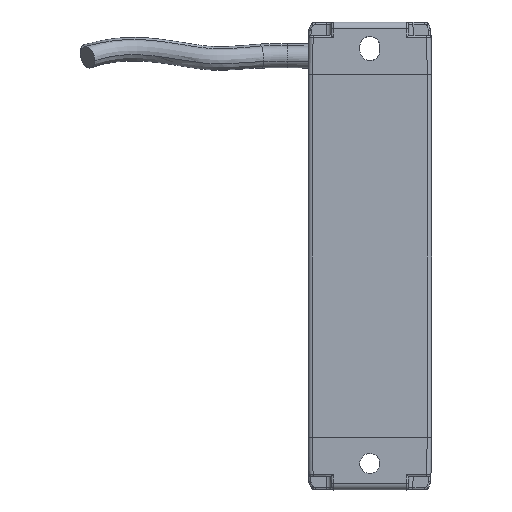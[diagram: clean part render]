
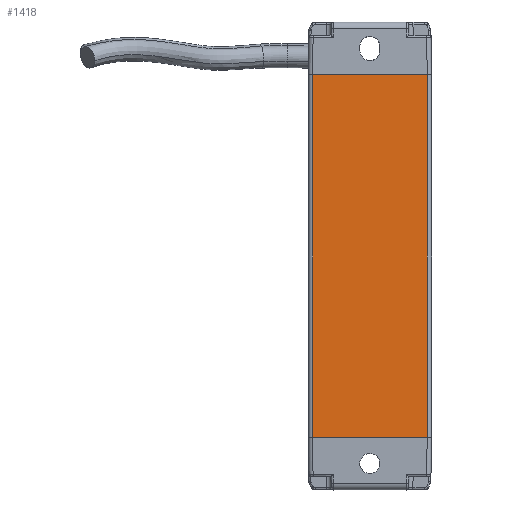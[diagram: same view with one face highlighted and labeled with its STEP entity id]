
A CAD part, front view. The second image highlights one B-rep face of the part: STEP entity #1418.
In plain terms, the highlighted planar face has unit normal (-0.001, -1, 0).
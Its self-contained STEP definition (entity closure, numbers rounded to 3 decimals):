
#1418=ADVANCED_FACE('',(#2524),#2051,.T.);
#2051=PLANE('',#14985);
#2524=FACE_OUTER_BOUND('',#3269,.T.);
#3269=EDGE_LOOP('',(#5767,#5768,#5769,#5770));
#5767=ORIENTED_EDGE('',*,*,#10749,.T.);
#5768=ORIENTED_EDGE('',*,*,#10702,.F.);
#5769=ORIENTED_EDGE('',*,*,#10747,.T.);
#5770=ORIENTED_EDGE('',*,*,#10750,.T.);
#9028=VERTEX_POINT('',#22611);
#9029=VERTEX_POINT('',#22613);
#9066=VERTEX_POINT('',#22702);
#9067=VERTEX_POINT('',#22706);
#10702=EDGE_CURVE('',#9028,#9029,#12558,.T.);
#10747=EDGE_CURVE('',#9028,#9066,#12589,.T.);
#10749=EDGE_CURVE('',#9067,#9029,#12590,.T.);
#10750=EDGE_CURVE('',#9066,#9067,#12591,.T.);
#12558=LINE('',#22612,#13773);
#12589=LINE('',#22701,#13804);
#12590=LINE('',#22705,#13805);
#12591=LINE('',#22707,#13806);
#13773=VECTOR('',#17179,1.);
#13804=VECTOR('',#17252,1.);
#13805=VECTOR('',#17257,1.);
#13806=VECTOR('',#17258,1.);
#14985=AXIS2_PLACEMENT_3D('',#22708,#17259,#17260);
#17179=DIRECTION('',(1.,-0.001,0.));
#17252=DIRECTION('',(0.,0.,-1.));
#17257=DIRECTION('',(0.,0.,1.));
#17258=DIRECTION('',(1.,-0.001,0.));
#17259=DIRECTION('',(-0.001,-1.,0.));
#17260=DIRECTION('',(1.,-0.001,0.));
#22611=CARTESIAN_POINT('',(53.048,-142.376,280.376));
#22612=CARTESIAN_POINT('',(79.028,-142.395,280.376));
#22613=CARTESIAN_POINT('',(79.028,-142.395,280.376));
#22701=CARTESIAN_POINT('',(53.048,-142.376,543.376));
#22702=CARTESIAN_POINT('',(53.048,-142.376,198.376));
#22705=CARTESIAN_POINT('',(79.028,-142.395,198.376));
#22706=CARTESIAN_POINT('',(79.028,-142.395,198.376));
#22707=CARTESIAN_POINT('',(53.048,-142.376,198.376));
#22708=CARTESIAN_POINT('',(79.028,-142.395,543.376));
